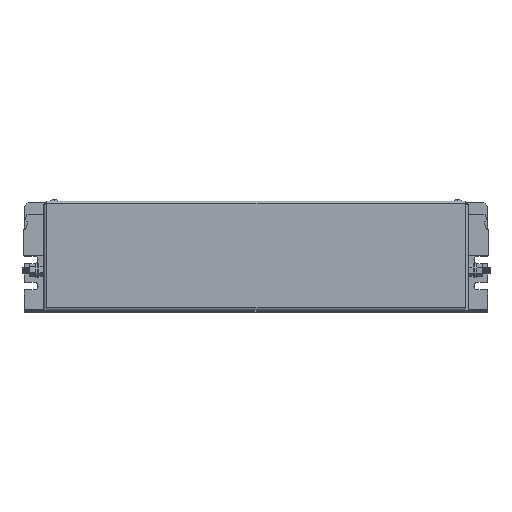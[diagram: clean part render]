
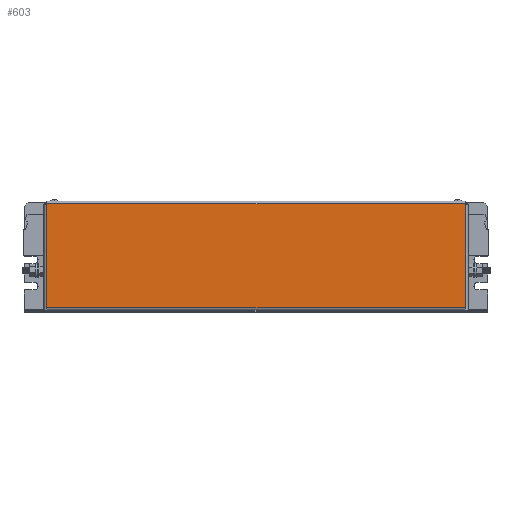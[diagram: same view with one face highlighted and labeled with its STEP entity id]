
A CAD part, top view. The second image highlights one B-rep face of the part: STEP entity #603.
In plain terms, the highlighted planar face has unit normal (0, 0, 1).
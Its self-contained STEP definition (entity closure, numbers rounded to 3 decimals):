
#326 = LINE ( 'NONE', #10141, #9696 ) ;
#375 = DIRECTION ( 'NONE',  ( 0., 1., 0. ) ) ;
#603 = ADVANCED_FACE ( 'NONE', ( #1711 ), #14866, .F. ) ;
#1445 = VERTEX_POINT ( 'NONE', #17349 ) ;
#1471 = CARTESIAN_POINT ( 'NONE',  ( 0., 2.2, 1.2 ) ) ;
#1687 = LINE ( 'NONE', #12252, #19236 ) ;
#1711 = FACE_OUTER_BOUND ( 'NONE', #13071, .T. ) ;
#2104 = VECTOR ( 'NONE', #2715, 1000. ) ;
#2182 = CARTESIAN_POINT ( 'NONE',  ( 320.6, 81.6, 1.2 ) ) ;
#2298 = CARTESIAN_POINT ( 'NONE',  ( 0., 2.2, 1.2 ) ) ;
#2715 = DIRECTION ( 'NONE',  ( 0., -1., 0. ) ) ;
#2899 = LINE ( 'NONE', #20633, #5828 ) ;
#3312 = LINE ( 'NONE', #13215, #18942 ) ;
#4865 = DIRECTION ( 'NONE',  ( 0., 0., -1. ) ) ;
#5171 = DIRECTION ( 'NONE',  ( -1., 0., 0. ) ) ;
#5585 = LINE ( 'NONE', #5978, #2104 ) ;
#5730 = DIRECTION ( 'NONE',  ( 1., 0., 0. ) ) ;
#5828 = VECTOR ( 'NONE', #5171, 1000. ) ;
#5978 = CARTESIAN_POINT ( 'NONE',  ( 0., 0., 1.2 ) ) ;
#6323 = VERTEX_POINT ( 'NONE', #1471 ) ;
#6670 = ORIENTED_EDGE ( 'NONE', *, *, #21869, .T. ) ;
#6845 = VECTOR ( 'NONE', #5730, 1000. ) ;
#7934 = VERTEX_POINT ( 'NONE', #16319 ) ;
#8443 = ORIENTED_EDGE ( 'NONE', *, *, #12191, .T. ) ;
#8889 = VERTEX_POINT ( 'NONE', #2182 ) ;
#8972 = CARTESIAN_POINT ( 'NONE',  ( 0., 81.6, 1.2 ) ) ;
#9608 = ORIENTED_EDGE ( 'NONE', *, *, #11944, .T. ) ;
#9609 = EDGE_CURVE ( 'NONE', #6323, #7934, #14790, .T. ) ;
#9696 = VECTOR ( 'NONE', #13662, 1000. ) ;
#10141 = CARTESIAN_POINT ( 'NONE',  ( 320.6, 0., 1.2 ) ) ;
#11944 = EDGE_CURVE ( 'NONE', #1445, #6323, #3312, .T. ) ;
#12191 = EDGE_CURVE ( 'NONE', #21975, #8889, #1687, .T. ) ;
#12252 = CARTESIAN_POINT ( 'NONE',  ( 320.6, 0., 1.2 ) ) ;
#13071 = EDGE_LOOP ( 'NONE', ( #19881, #6670, #8443, #19690, #15716, #9608 ) ) ;
#13215 = CARTESIAN_POINT ( 'NONE',  ( 0., 81.35, 1.2 ) ) ;
#13662 = DIRECTION ( 'NONE',  ( 0., 1., 0. ) ) ;
#14790 = LINE ( 'NONE', #2298, #6845 ) ;
#14847 = EDGE_CURVE ( 'NONE', #8889, #17591, #2899, .T. ) ;
#14866 = PLANE ( 'NONE',  #16506 ) ;
#14997 = CARTESIAN_POINT ( 'NONE',  ( 0., 81.6, 1.2 ) ) ;
#15716 = ORIENTED_EDGE ( 'NONE', *, *, #17826, .T. ) ;
#16319 = CARTESIAN_POINT ( 'NONE',  ( 320.6, 2.2, 1.2 ) ) ;
#16506 = AXIS2_PLACEMENT_3D ( 'NONE', #14997, #4865, #16689 ) ;
#16689 = DIRECTION ( 'NONE',  ( -1., 0., 0. ) ) ;
#17349 = CARTESIAN_POINT ( 'NONE',  ( 0., 81.35, 1.2 ) ) ;
#17591 = VERTEX_POINT ( 'NONE', #8972 ) ;
#17826 = EDGE_CURVE ( 'NONE', #17591, #1445, #5585, .T. ) ;
#18942 = VECTOR ( 'NONE', #20011, 1000. ) ;
#19236 = VECTOR ( 'NONE', #375, 1000. ) ;
#19690 = ORIENTED_EDGE ( 'NONE', *, *, #14847, .T. ) ;
#19881 = ORIENTED_EDGE ( 'NONE', *, *, #9609, .T. ) ;
#20011 = DIRECTION ( 'NONE',  ( 0., -1., 0. ) ) ;
#20633 = CARTESIAN_POINT ( 'NONE',  ( 0., 81.6, 1.2 ) ) ;
#20836 = CARTESIAN_POINT ( 'NONE',  ( 320.6, 81.35, 1.2 ) ) ;
#21869 = EDGE_CURVE ( 'NONE', #7934, #21975, #326, .T. ) ;
#21975 = VERTEX_POINT ( 'NONE', #20836 ) ;
